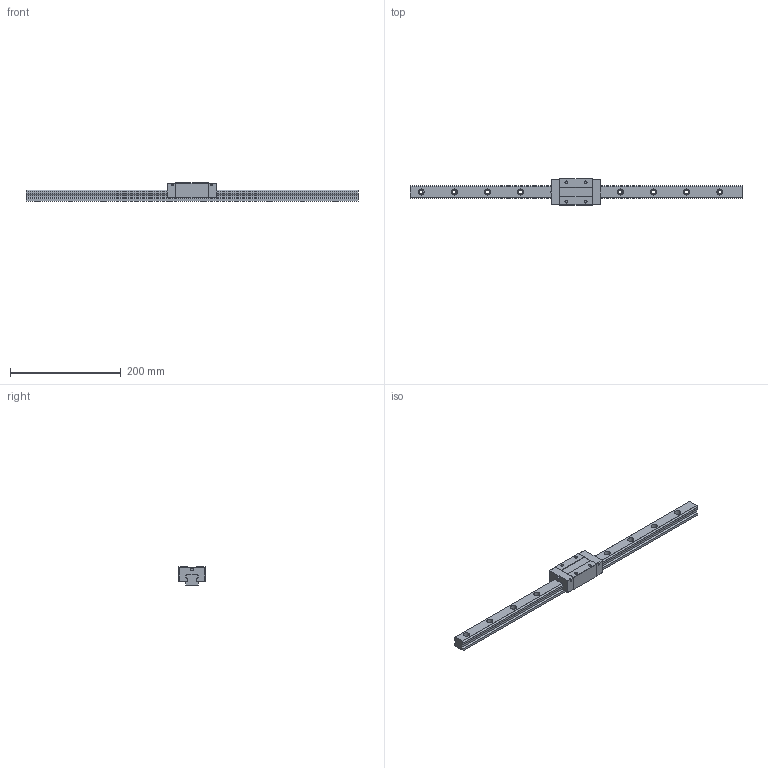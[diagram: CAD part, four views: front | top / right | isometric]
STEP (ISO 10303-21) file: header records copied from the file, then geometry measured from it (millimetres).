
FILE_DESCRIPTION (( 'STEP AP203' ), '1' );
FILE_NAME ('TRS25VN-ZN.STEP', '2024-06-12T09:02:33', ( '' ), ( '' ), 'SwSTEP 2.0', 'SolidWorks 2022', '' );
FILE_SCHEMA (( 'CONFIG_CONTROL_DESIGN' ));
Length unit declared in the file: millimetre
Products named in the file (1): TRS25VN-ZN
Bounding box: 600 x 48 x 33 mm (x, y, z)
Volume: 321764.2 mm3; surface area: 77848.7 mm2
Topology: 2 solids, 2 shells, 192 faces, 496 edges, 328 vertices
Faces by surface type: cylinder 96, plane 96
Entity records: 6023 total; most frequent: DIRECTION 1074, CARTESIAN_POINT 1017, ORIENTED_EDGE 992, EDGE_CURVE 496, AXIS2_PLACEMENT_3D 385, VERTEX_POINT 328, VECTOR 304, LINE 304
